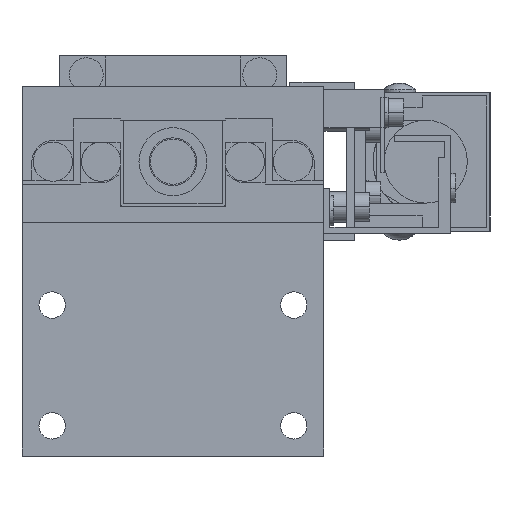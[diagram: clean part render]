
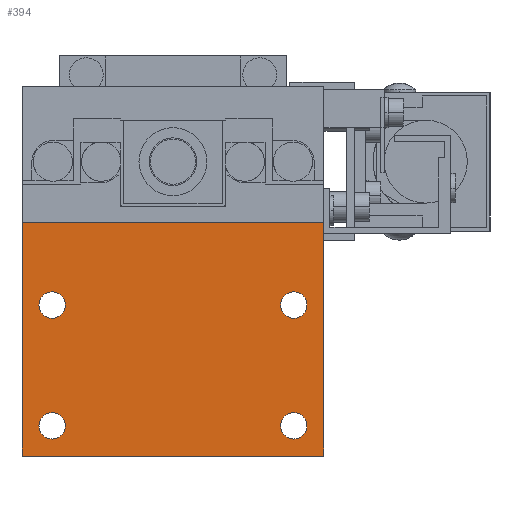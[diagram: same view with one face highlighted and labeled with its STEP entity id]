
A CAD part, front view. The second image highlights one B-rep face of the part: STEP entity #394.
In plain terms, the highlighted planar face has unit normal (0, -1, 0).
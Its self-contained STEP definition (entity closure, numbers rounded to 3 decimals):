
#394=ADVANCED_FACE('',(#1192,#1193,#1194,#1195,#1196),#1197,.F.);
#1192=FACE_BOUND('',#2820,.T.);
#1193=FACE_BOUND('',#2821,.T.);
#1194=FACE_BOUND('',#2822,.T.);
#1195=FACE_BOUND('',#2823,.T.);
#1196=FACE_OUTER_BOUND('',#2824,.T.);
#1197=PLANE('',#2825);
#2820=EDGE_LOOP('',(#4634,#4635));
#2821=EDGE_LOOP('',(#4636,#4637));
#2822=EDGE_LOOP('',(#4638,#4639));
#2823=EDGE_LOOP('',(#4640,#4641));
#2824=EDGE_LOOP('',(#4642,#4643,#4644,#4645));
#2825=AXIS2_PLACEMENT_3D('',#4646,#4647,#4648);
#4634=ORIENTED_EDGE('',*,*,#10585,.F.);
#4635=ORIENTED_EDGE('',*,*,#10503,.F.);
#4636=ORIENTED_EDGE('',*,*,#10586,.F.);
#4637=ORIENTED_EDGE('',*,*,#10499,.F.);
#4638=ORIENTED_EDGE('',*,*,#10584,.F.);
#4639=ORIENTED_EDGE('',*,*,#10507,.F.);
#4640=ORIENTED_EDGE('',*,*,#10578,.F.);
#4641=ORIENTED_EDGE('',*,*,#10511,.F.);
#4642=ORIENTED_EDGE('',*,*,#10587,.T.);
#4643=ORIENTED_EDGE('',*,*,#10570,.F.);
#4644=ORIENTED_EDGE('',*,*,#10555,.F.);
#4645=ORIENTED_EDGE('',*,*,#10572,.T.);
#4646=CARTESIAN_POINT('',(-20.0,0.0,-13.5));
#4647=DIRECTION('',(0.0,1.0,0.0));
#4648=DIRECTION('',(-1.0,0.0,0.0));
#10499=EDGE_CURVE('',#12471,#12467,#12473,.T.);
#10503=EDGE_CURVE('',#12479,#12475,#12481,.T.);
#10507=EDGE_CURVE('',#12487,#12483,#12489,.T.);
#10511=EDGE_CURVE('',#12495,#12491,#12497,.T.);
#10555=EDGE_CURVE('',#12573,#12575,#12576,.T.);
#10570=EDGE_CURVE('',#12575,#12594,#12598,.T.);
#10572=EDGE_CURVE('',#12573,#12599,#12601,.T.);
#10578=EDGE_CURVE('',#12491,#12495,#12608,.T.);
#10584=EDGE_CURVE('',#12483,#12487,#12616,.T.);
#10585=EDGE_CURVE('',#12475,#12479,#12617,.T.);
#10586=EDGE_CURVE('',#12467,#12471,#12618,.T.);
#10587=EDGE_CURVE('',#12599,#12594,#12619,.T.);
#12467=VERTEX_POINT('',#15640);
#12471=VERTEX_POINT('',#15645);
#12473=CIRCLE('',#15648,1.75);
#12475=VERTEX_POINT('',#15650);
#12479=VERTEX_POINT('',#15655);
#12481=CIRCLE('',#15658,1.75);
#12483=VERTEX_POINT('',#15660);
#12487=VERTEX_POINT('',#15665);
#12489=CIRCLE('',#15668,1.75);
#12491=VERTEX_POINT('',#15670);
#12495=VERTEX_POINT('',#15675);
#12497=CIRCLE('',#15678,1.75);
#12573=VERTEX_POINT('',#15779);
#12575=VERTEX_POINT('',#15782);
#12576=LINE('',#15783,#15784);
#12594=VERTEX_POINT('',#15810);
#12598=LINE('',#15816,#15817);
#12599=VERTEX_POINT('',#15818);
#12601=LINE('',#15821,#15822);
#12608=CIRCLE('',#15831,1.75);
#12616=CIRCLE('',#15842,1.75);
#12617=CIRCLE('',#15843,1.75);
#12618=CIRCLE('',#15844,1.75);
#12619=LINE('',#15845,#15846);
#15640=CARTESIAN_POINT('',(-16.0,0.0,-7.75));
#15645=CARTESIAN_POINT('',(-16.0,0.0,-11.25));
#15648=AXIS2_PLACEMENT_3D('',#20332,#20333,#20334);
#15650=CARTESIAN_POINT('',(16.0,0.0,8.25));
#15655=CARTESIAN_POINT('',(16.0,0.0,4.75));
#15658=AXIS2_PLACEMENT_3D('',#20340,#20341,#20342);
#15660=CARTESIAN_POINT('',(16.0,0.0,-7.75));
#15665=CARTESIAN_POINT('',(16.0,0.0,-11.25));
#15668=AXIS2_PLACEMENT_3D('',#20348,#20349,#20350);
#15670=CARTESIAN_POINT('',(-16.0,0.0,8.25));
#15675=CARTESIAN_POINT('',(-16.0,0.0,4.75));
#15678=AXIS2_PLACEMENT_3D('',#20356,#20357,#20358);
#15779=CARTESIAN_POINT('',(-20.0,0.0,-13.5));
#15782=CARTESIAN_POINT('',(-20.0,0.0,17.5));
#15783=CARTESIAN_POINT('',(-20.0,0.0,-13.5));
#15784=VECTOR('',#20436,1000.0);
#15810=CARTESIAN_POINT('',(20.0,0.0,17.5));
#15816=CARTESIAN_POINT('',(-20.0,0.0,17.5));
#15817=VECTOR('',#20459,1000.0);
#15818=CARTESIAN_POINT('',(20.0,0.0,-13.5));
#15821=CARTESIAN_POINT('',(-20.0,0.0,-13.5));
#15822=VECTOR('',#20461,1000.0);
#15831=AXIS2_PLACEMENT_3D('',#20473,#20474,#20475);
#15842=AXIS2_PLACEMENT_3D('',#20485,#20486,#20487);
#15843=AXIS2_PLACEMENT_3D('',#20488,#20489,#20490);
#15844=AXIS2_PLACEMENT_3D('',#20491,#20492,#20493);
#15845=CARTESIAN_POINT('',(20.0,0.0,-13.5));
#15846=VECTOR('',#20494,1000.0);
#20332=CARTESIAN_POINT('',(-16.0,0.0,-9.5));
#20333=DIRECTION('',(0.0,-1.0,0.0));
#20334=DIRECTION('',(0.0,0.0,1.0));
#20340=CARTESIAN_POINT('',(16.0,0.0,6.5));
#20341=DIRECTION('',(0.0,-1.0,0.0));
#20342=DIRECTION('',(0.0,0.0,1.0));
#20348=CARTESIAN_POINT('',(16.0,0.0,-9.5));
#20349=DIRECTION('',(0.0,-1.0,0.0));
#20350=DIRECTION('',(0.0,0.0,1.0));
#20356=CARTESIAN_POINT('',(-16.0,0.0,6.5));
#20357=DIRECTION('',(0.0,-1.0,0.0));
#20358=DIRECTION('',(0.0,0.0,1.0));
#20436=DIRECTION('',(0.0,0.0,1.0));
#20459=DIRECTION('',(1.0,0.0,0.0));
#20461=DIRECTION('',(1.0,0.0,0.0));
#20473=CARTESIAN_POINT('',(-16.0,0.0,6.5));
#20474=DIRECTION('',(0.0,-1.0,0.0));
#20475=DIRECTION('',(0.0,0.0,1.0));
#20485=CARTESIAN_POINT('',(16.0,0.0,-9.5));
#20486=DIRECTION('',(0.0,-1.0,0.0));
#20487=DIRECTION('',(0.0,0.0,1.0));
#20488=CARTESIAN_POINT('',(16.0,0.0,6.5));
#20489=DIRECTION('',(0.0,-1.0,0.0));
#20490=DIRECTION('',(0.0,0.0,1.0));
#20491=CARTESIAN_POINT('',(-16.0,0.0,-9.5));
#20492=DIRECTION('',(0.0,-1.0,0.0));
#20493=DIRECTION('',(0.0,0.0,1.0));
#20494=DIRECTION('',(0.0,0.0,1.0));
